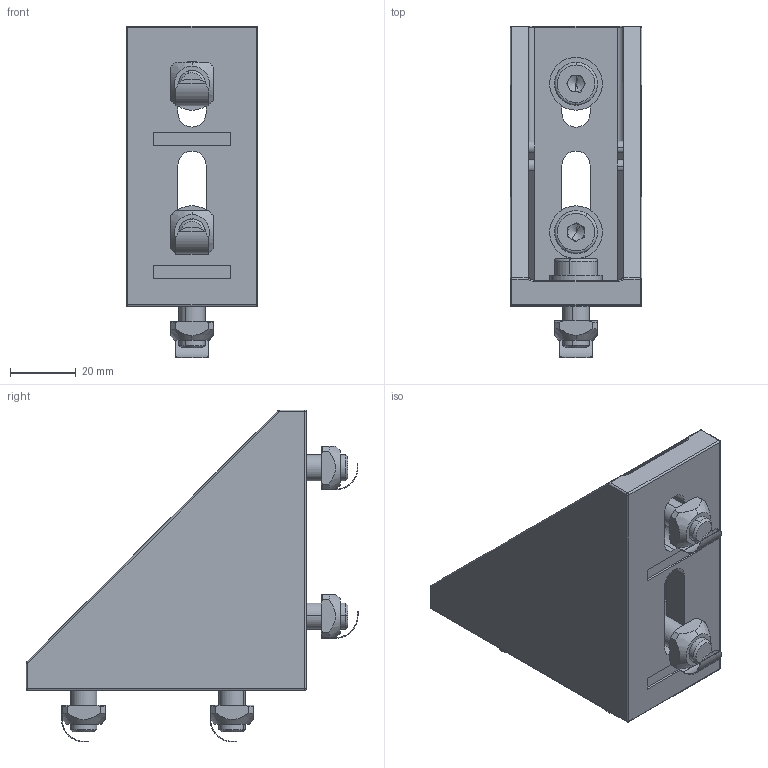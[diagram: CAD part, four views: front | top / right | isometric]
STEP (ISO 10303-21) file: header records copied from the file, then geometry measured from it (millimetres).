
FILE_DESCRIPTION (( 'STEP AP214' ), '1' );
FILE_NAME ('1.3028 Kulma 45X90p.STEP', '2024-01-15T13:21:09', ( '' ), ( '' ), 'SwSTEP 2.0', 'SolidWorks 2024', '' );
FILE_SCHEMA (( 'AUTOMOTIVE_DESIGN' ));
Length unit declared in the file: millimetre
Products named in the file (1): 1.3028 Kulma 45X90p
Bounding box: 40 x 100.65 x 100.65 mm (x, y, z)
Volume: 90446.1 mm3; surface area: 37436.4 mm2
Topology: 13 solids, 13 shells, 374 faces, 904 edges, 550 vertices
Faces by surface type: plane 210, cylinder 98, cone 36, torus 20, sphere 10
Entity records: 15375 total; most frequent: CARTESIAN_POINT 2431, DIRECTION 1824, ORIENTED_EDGE 1772, EDGE_CURVE 886, AXIS2_PLACEMENT_3D 655, VERTEX_POINT 550, LINE 514, VECTOR 514
